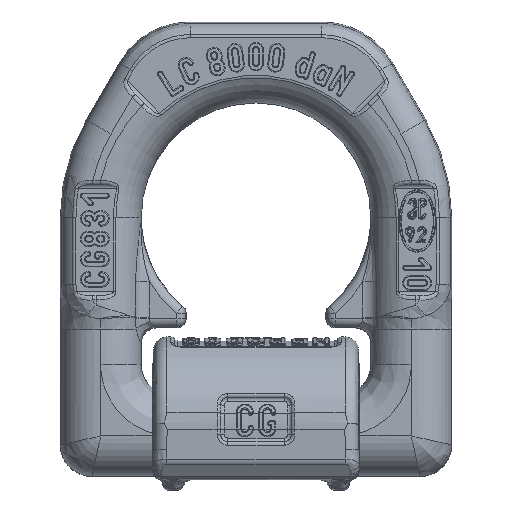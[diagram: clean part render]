
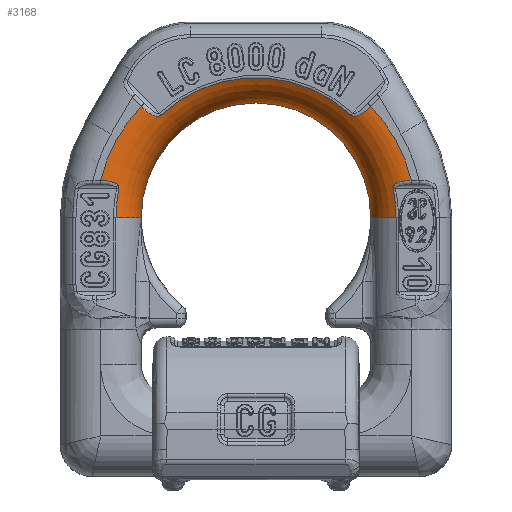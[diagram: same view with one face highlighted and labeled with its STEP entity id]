
A CAD part, front view. The second image highlights one B-rep face of the part: STEP entity #3168.
In plain terms, the highlighted toroidal (fillet/blend) face has major radius 35.524 mm and minor radius 10 mm.
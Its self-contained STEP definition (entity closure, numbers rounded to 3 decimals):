
#211=TOROIDAL_SURFACE('',#27776,35.524,10.);
#1445=FACE_OUTER_BOUND('',#7831,.T.);
#3168=ADVANCED_FACE('',(#1445),#211,.T.);
#5430=CIRCLE('',#27726,35.524);
#5456=CIRCLE('',#27767,35.524);
#5458=CIRCLE('',#27770,31.119);
#5459=CIRCLE('',#27771,31.119);
#5460=CIRCLE('',#27772,31.119);
#5461=CIRCLE('',#27773,10.);
#5462=CIRCLE('',#27774,25.549);
#5463=CIRCLE('',#27775,10.);
#6831=B_SPLINE_CURVE_WITH_KNOTS('',3,(#39496,#39497,#39498,#39499,#39500,
#39501,#39502,#39503),.UNSPECIFIED.,.F.,.F.,(4,2,2,4),(0.,0.25,0.5,
1.),.UNSPECIFIED.);
#6832=B_SPLINE_CURVE_WITH_KNOTS('',3,(#39504,#39505,#39506,#39507,#39508,
#39509,#39510,#39511),.UNSPECIFIED.,.F.,.F.,(4,2,2,4),(0.,0.5,
0.75,1.),.UNSPECIFIED.);
#6833=B_SPLINE_CURVE_WITH_KNOTS('',3,(#39515,#39516,#39517,#39518,#39519,
#39520,#39521,#39522),.UNSPECIFIED.,.F.,.F.,(4,2,2,4),(0.,0.25,
0.5,1.),.UNSPECIFIED.);
#6834=B_SPLINE_CURVE_WITH_KNOTS('',3,(#39523,#39524,#39525,#39526,#39527,
#39528,#39529,#39530,#39531,#39532,#39533,#39534,#39535,#39536,#39537,#39538,
#39539,#39540,#39541,#39542,#39543,#39544),.UNSPECIFIED.,.F.,.F.,(4,3,3,
3,3,3,3,4),(0.,0.275,0.575,0.736,0.836,
0.92,0.98,1.),.UNSPECIFIED.);
#7831=EDGE_LOOP('',(#10339,#10340,#10341,#10342,#10343,#10344,#10345,#10346,
#10347,#10348,#10349,#10350));
#10339=ORIENTED_EDGE('',*,*,#20860,.T.);
#10340=ORIENTED_EDGE('',*,*,#20861,.T.);
#10341=ORIENTED_EDGE('',*,*,#20774,.F.);
#10342=ORIENTED_EDGE('',*,*,#20862,.T.);
#10343=ORIENTED_EDGE('',*,*,#20863,.T.);
#10344=ORIENTED_EDGE('',*,*,#20864,.T.);
#10345=ORIENTED_EDGE('',*,*,#20855,.F.);
#10346=ORIENTED_EDGE('',*,*,#20865,.T.);
#10347=ORIENTED_EDGE('',*,*,#20866,.T.);
#10348=ORIENTED_EDGE('',*,*,#20867,.T.);
#10349=ORIENTED_EDGE('',*,*,#20868,.F.);
#10350=ORIENTED_EDGE('',*,*,#20869,.F.);
#18373=VERTEX_POINT('',#39047);
#18374=VERTEX_POINT('',#39048);
#18438=VERTEX_POINT('',#39483);
#18439=VERTEX_POINT('',#39484);
#18443=VERTEX_POINT('',#39494);
#18444=VERTEX_POINT('',#39495);
#18445=VERTEX_POINT('',#39512);
#18446=VERTEX_POINT('',#39514);
#18447=VERTEX_POINT('',#39545);
#18448=VERTEX_POINT('',#39547);
#18449=VERTEX_POINT('',#39549);
#18450=VERTEX_POINT('',#39551);
#20774=EDGE_CURVE('',#18373,#18374,#5430,.T.);
#20855=EDGE_CURVE('',#18438,#18439,#5456,.T.);
#20860=EDGE_CURVE('',#18443,#18444,#5458,.T.);
#20861=EDGE_CURVE('',#18444,#18374,#6831,.T.);
#20862=EDGE_CURVE('',#18373,#18445,#6832,.T.);
#20863=EDGE_CURVE('',#18445,#18446,#5459,.T.);
#20864=EDGE_CURVE('',#18446,#18439,#6833,.T.);
#20865=EDGE_CURVE('',#18438,#18447,#6834,.T.);
#20866=EDGE_CURVE('',#18447,#18448,#5460,.T.);
#20867=EDGE_CURVE('',#18448,#18449,#5461,.T.);
#20868=EDGE_CURVE('',#18450,#18449,#5462,.T.);
#20869=EDGE_CURVE('',#18443,#18450,#5463,.T.);
#27726=AXIS2_PLACEMENT_3D('',#39046,#31099,#31100);
#27767=AXIS2_PLACEMENT_3D('',#39482,#31205,#31206);
#27770=AXIS2_PLACEMENT_3D('',#39493,#31214,#31215);
#27771=AXIS2_PLACEMENT_3D('',#39513,#31216,#31217);
#27772=AXIS2_PLACEMENT_3D('',#39546,#31218,#31219);
#27773=AXIS2_PLACEMENT_3D('',#39548,#31220,#31221);
#27774=AXIS2_PLACEMENT_3D('',#39550,#31222,#31223);
#27775=AXIS2_PLACEMENT_3D('',#39552,#31224,#31225);
#27776=AXIS2_PLACEMENT_3D('',#39553,#31226,#31227);
#31099=DIRECTION('',(0.,1.,0.));
#31100=DIRECTION('',(1.,0.,0.));
#31205=DIRECTION('',(0.,1.,0.));
#31206=DIRECTION('',(1.,0.,0.));
#31214=DIRECTION('',(0.,-1.,0.));
#31215=DIRECTION('',(-1.,0.,0.));
#31216=DIRECTION('',(0.,-1.,0.));
#31217=DIRECTION('',(-1.,0.,0.));
#31218=DIRECTION('',(0.,-1.,0.));
#31219=DIRECTION('',(-1.,0.,0.));
#31220=DIRECTION('',(0.,0.,1.));
#31221=DIRECTION('',(0.,-1.,0.));
#31222=DIRECTION('',(0.,-1.,0.));
#31223=DIRECTION('',(-1.,0.,0.));
#31224=DIRECTION('',(0.,0.,-1.));
#31225=DIRECTION('',(0.,1.,0.));
#31226=DIRECTION('',(0.,-1.,0.));
#31227=DIRECTION('',(1.,0.,0.));
#39046=CARTESIAN_POINT('',(0.,-10.,48.5));
#39047=CARTESIAN_POINT('',(25.496,-10.,73.237));
#39048=CARTESIAN_POINT('',(34.539,-10.,56.811));
#39482=CARTESIAN_POINT('',(0.,-10.,48.5));
#39483=CARTESIAN_POINT('',(-34.539,-10.,56.811));
#39484=CARTESIAN_POINT('',(-25.496,-10.,73.237));
#39493=CARTESIAN_POINT('',(0.,-8.977,48.5));
#39494=CARTESIAN_POINT('',(31.119,-8.977,48.5));
#39495=CARTESIAN_POINT('',(30.468,-8.977,54.83));
#39496=CARTESIAN_POINT('',(30.468,-8.977,54.83));
#39497=CARTESIAN_POINT('',(30.379,-8.977,55.259));
#39498=CARTESIAN_POINT('',(30.606,-9.134,55.675));
#39499=CARTESIAN_POINT('',(31.236,-9.429,56.193));
#39500=CARTESIAN_POINT('',(31.625,-9.568,56.351));
#39501=CARTESIAN_POINT('',(32.833,-9.896,56.707));
#39502=CARTESIAN_POINT('',(33.675,-10.,56.787));
#39503=CARTESIAN_POINT('',(34.539,-10.,56.811));
#39504=CARTESIAN_POINT('',(25.496,-10.,73.237));
#39505=CARTESIAN_POINT('',(24.88,-10.,72.603));
#39506=CARTESIAN_POINT('',(24.221,-9.881,72.019));
#39507=CARTESIAN_POINT('',(23.12,-9.546,71.361));
#39508=CARTESIAN_POINT('',(22.735,-9.407,71.18));
#39509=CARTESIAN_POINT('',(21.909,-9.127,71.023));
#39510=CARTESIAN_POINT('',(21.437,-8.977,71.062));
#39511=CARTESIAN_POINT('',(21.106,-8.977,71.367));
#39512=CARTESIAN_POINT('',(21.106,-8.977,71.367));
#39513=CARTESIAN_POINT('',(0.,-8.977,48.5));
#39514=CARTESIAN_POINT('',(-21.106,-8.977,71.367));
#39515=CARTESIAN_POINT('',(-21.106,-8.977,71.367));
#39516=CARTESIAN_POINT('',(-21.437,-8.977,71.062));
#39517=CARTESIAN_POINT('',(-21.914,-9.128,71.024));
#39518=CARTESIAN_POINT('',(-22.737,-9.408,71.181));
#39519=CARTESIAN_POINT('',(-23.124,-9.547,71.363));
#39520=CARTESIAN_POINT('',(-24.229,-9.883,72.025));
#39521=CARTESIAN_POINT('',(-24.879,-10.,72.602));
#39522=CARTESIAN_POINT('',(-25.496,-10.,73.237));
#39523=CARTESIAN_POINT('',(-34.539,-10.,56.811));
#39524=CARTESIAN_POINT('',(-34.065,-10.,56.798));
#39525=CARTESIAN_POINT('',(-33.591,-9.968,56.762));
#39526=CARTESIAN_POINT('',(-33.127,-9.902,56.698));
#39527=CARTESIAN_POINT('',(-32.623,-9.83,56.628));
#39528=CARTESIAN_POINT('',(-32.123,-9.718,56.524));
#39529=CARTESIAN_POINT('',(-31.665,-9.57,56.347));
#39530=CARTESIAN_POINT('',(-31.418,-9.49,56.252));
#39531=CARTESIAN_POINT('',(-31.179,-9.399,56.133));
#39532=CARTESIAN_POINT('',(-30.973,-9.305,55.975));
#39533=CARTESIAN_POINT('',(-30.844,-9.247,55.877));
#39534=CARTESIAN_POINT('',(-30.726,-9.187,55.761));
#39535=CARTESIAN_POINT('',(-30.634,-9.133,55.626));
#39536=CARTESIAN_POINT('',(-30.556,-9.088,55.512));
#39537=CARTESIAN_POINT('',(-30.496,-9.047,55.381));
#39538=CARTESIAN_POINT('',(-30.467,-9.019,55.242));
#39539=CARTESIAN_POINT('',(-30.447,-8.999,55.142));
#39540=CARTESIAN_POINT('',(-30.441,-8.985,55.037));
#39541=CARTESIAN_POINT('',(-30.452,-8.98,54.934));
#39542=CARTESIAN_POINT('',(-30.456,-8.978,54.899));
#39543=CARTESIAN_POINT('',(-30.461,-8.977,54.864));
#39544=CARTESIAN_POINT('',(-30.468,-8.977,54.83));
#39545=CARTESIAN_POINT('',(-30.468,-8.977,54.83));
#39546=CARTESIAN_POINT('',(0.,-8.977,48.5));
#39547=CARTESIAN_POINT('',(-31.119,-8.977,48.5));
#39548=CARTESIAN_POINT('',(-35.524,0.,48.5));
#39549=CARTESIAN_POINT('',(-25.549,-0.698,48.5));
#39550=CARTESIAN_POINT('',(0.,-0.698,48.5));
#39551=CARTESIAN_POINT('',(25.549,-0.698,48.5));
#39552=CARTESIAN_POINT('',(35.524,0.,48.5));
#39553=CARTESIAN_POINT('',(0.,0.,48.5));
